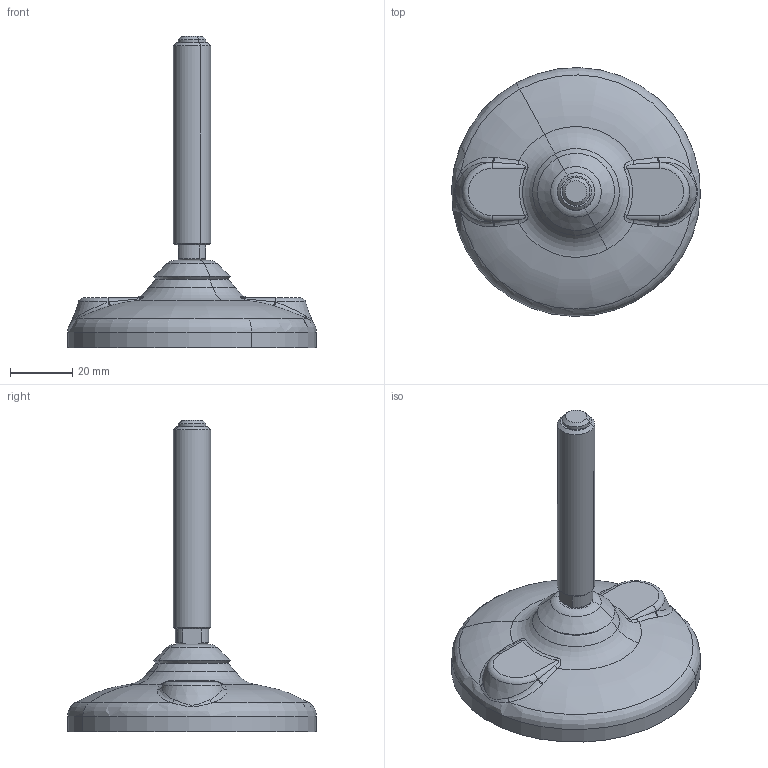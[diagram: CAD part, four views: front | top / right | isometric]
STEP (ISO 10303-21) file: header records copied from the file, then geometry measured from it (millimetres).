
FILE_DESCRIPTION(('CATIA V5 STEP Exchange'),'2;1');
FILE_NAME('X:\CODICI MOVEX\3D per clienti\Sanco\29-05-2015\P91001Z_01.stp','2015-05-29T12:45:59+00:00',('none'),('none'),'Version 5-6 Release 2012','CATIA V5 STEP AP203','none');
FILE_SCHEMA(('CONFIG_CONTROL_DESIGN'));
Length unit declared in the file: millimetre
Products named in the file (1): P91001Z_01
Assembly tree (3 placements, depth 2):
  P91001Z_01
    #57
    #885
    #1226
Bounding box: 79.98 x 79.98 x 100.02 mm (x, y, z)
Volume: 54093.9 mm3; surface area: 32080.6 mm2
Topology: 3 solids, 4 shells, 841 faces, 2260 edges, 1426 vertices
Faces by surface type: plane 491, bspline 146, torus 69, cylinder 46, cone 40, sphere 26, revolution 23
Entity records: 35438 total; most frequent: CARTESIAN_POINT 18356, ORIENTED_EDGE 4496, EDGE_CURVE 2248, DIRECTION 1929, B_SPLINE_CURVE_WITH_KNOTS 1443, VERTEX_POINT 1426, AXIS2_PLACEMENT_3D 866, EDGE_LOOP 856
